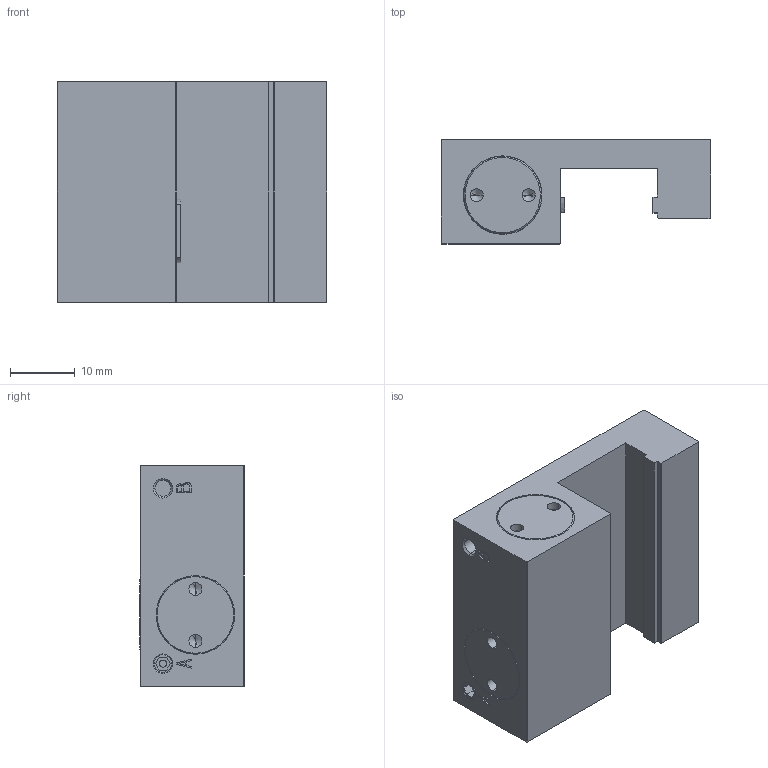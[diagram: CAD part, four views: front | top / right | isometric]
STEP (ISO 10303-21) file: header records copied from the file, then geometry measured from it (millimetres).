
FILE_DESCRIPTION( ( '' ), '1' );
FILE_NAME( 'E:/04 嬴檜蠱滌/0404 ZIMMER/040414 ZIMMER CAD download/MCP/MCP1505A---.stp', '2020-04-16T10:02:39', ( '' ), ( '' ), ' ', ' ', ' ' );
FILE_SCHEMA( ( 'automotive_design' ) );
Length unit declared in the file: millimetre
Products named in the file (1): 1
Bounding box: 41.5 x 16.05 x 34 mm (x, y, z)
Volume: 15531.8 mm3; surface area: 5829.5 mm2
Topology: 1 solids, 1 shells, 121 faces, 286 edges, 180 vertices
Faces by surface type: plane 67, cylinder 32, cone 22
Entity records: 6686 total; most frequent: DIRECTION 602, STYLED_ITEM 580, PRESENTATION_STYLE_ASSIGNMENT 580, CARTESIAN_POINT 580, COLOUR_RGB 580, ORIENTED_EDGE 556, EDGE_CURVE 278, CURVE_STYLE 278
